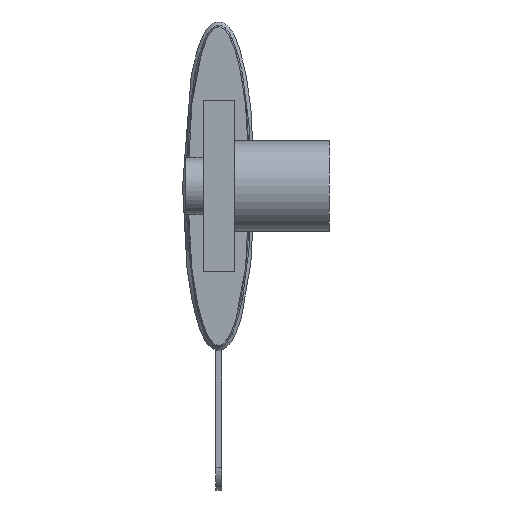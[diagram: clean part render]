
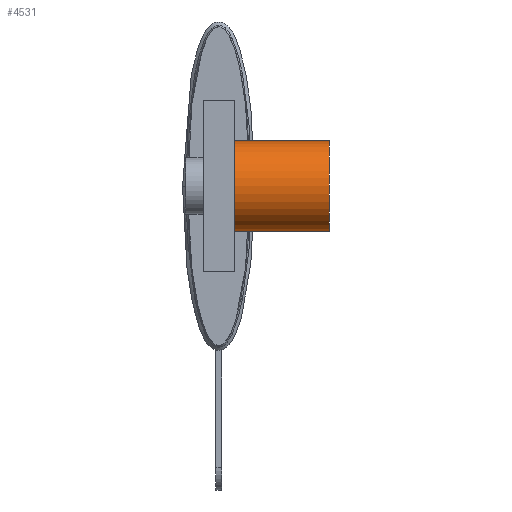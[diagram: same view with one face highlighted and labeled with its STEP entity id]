
A CAD part, left-side view. The second image highlights one B-rep face of the part: STEP entity #4531.
In plain terms, the highlighted cylindrical face has radius 3.97 mm (diameter 7.94 mm), a partial arc.
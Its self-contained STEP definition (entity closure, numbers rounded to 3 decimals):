
#590 = CARTESIAN_POINT ( 'NONE',  ( -69.85, -9.735, 3.97 ) ) ;
#832 = CARTESIAN_POINT ( 'NONE',  ( -69.85, -9.735, -3.97 ) ) ;
#1022 = CIRCLE ( 'NONE', #1064, 3.97 ) ;
#1064 = AXIS2_PLACEMENT_3D ( 'NONE', #2471, #2470, #2464 ) ;
#1142 = CARTESIAN_POINT ( 'NONE',  ( -69.85, -1.375, 3.97 ) ) ;
#1184 = DIRECTION ( 'NONE',  ( 0., 0., 1. ) ) ;
#1186 = DIRECTION ( 'NONE',  ( 0., 1., 0. ) ) ;
#1191 = CARTESIAN_POINT ( 'NONE',  ( -69.85, -31.375, 0. ) ) ;
#1202 = ORIENTED_EDGE ( 'NONE', *, *, #5512, .F. ) ;
#1205 = CYLINDRICAL_SURFACE ( 'NONE', #4576, 3.97 ) ;
#1209 = FACE_OUTER_BOUND ( 'NONE', #6413, .T. ) ;
#1215 = ORIENTED_EDGE ( 'NONE', *, *, #5747, .T. ) ;
#1217 = ORIENTED_EDGE ( 'NONE', *, *, #3715, .T. ) ;
#1229 = ORIENTED_EDGE ( 'NONE', *, *, #3897, .T. ) ;
#1474 = VERTEX_POINT ( 'NONE', #590 ) ;
#2464 = DIRECTION ( 'NONE',  ( 0., 0., 1. ) ) ;
#2470 = DIRECTION ( 'NONE',  ( 0., 1., 0. ) ) ;
#2471 = CARTESIAN_POINT ( 'NONE',  ( -69.85, -9.735, 0. ) ) ;
#3683 = VERTEX_POINT ( 'NONE', #5355 ) ;
#3715 = EDGE_CURVE ( 'NONE', #1474, #6183, #5208, .T. ) ;
#3897 = EDGE_CURVE ( 'NONE', #6183, #3683, #4939, .T. ) ;
#4173 = DIRECTION ( 'NONE',  ( 0., 0., 1. ) ) ;
#4179 = DIRECTION ( 'NONE',  ( 0., -1., 0. ) ) ;
#4182 = CARTESIAN_POINT ( 'NONE',  ( -69.85, -1.375, 0. ) ) ;
#4254 = DIRECTION ( 'NONE',  ( 0., 1., 0. ) ) ;
#4261 = CARTESIAN_POINT ( 'NONE',  ( -69.85, -31.375, -3.97 ) ) ;
#4262 = LINE ( 'NONE', #4261, #4963 ) ;
#4531 = ADVANCED_FACE ( 'NONE', ( #1209 ), #1205, .T. ) ;
#4576 = AXIS2_PLACEMENT_3D ( 'NONE', #1191, #1186, #1184 ) ;
#4926 = AXIS2_PLACEMENT_3D ( 'NONE', #4182, #4179, #4173 ) ;
#4929 = VERTEX_POINT ( 'NONE', #832 ) ;
#4939 = CIRCLE ( 'NONE', #4926, 3.97 ) ;
#4963 = VECTOR ( 'NONE', #4254, 1000. ) ;
#5202 = DIRECTION ( 'NONE',  ( 0., 1., 0. ) ) ;
#5205 = CARTESIAN_POINT ( 'NONE',  ( -69.85, -31.375, 3.97 ) ) ;
#5208 = LINE ( 'NONE', #5205, #5417 ) ;
#5355 = CARTESIAN_POINT ( 'NONE',  ( -69.85, -1.375, -3.97 ) ) ;
#5417 = VECTOR ( 'NONE', #5202, 1000. ) ;
#5512 = EDGE_CURVE ( 'NONE', #4929, #3683, #4262, .T. ) ;
#5747 = EDGE_CURVE ( 'NONE', #4929, #1474, #1022, .T. ) ;
#6183 = VERTEX_POINT ( 'NONE', #1142 ) ;
#6413 = EDGE_LOOP ( 'NONE', ( #1202, #1215, #1217, #1229 ) ) ;
